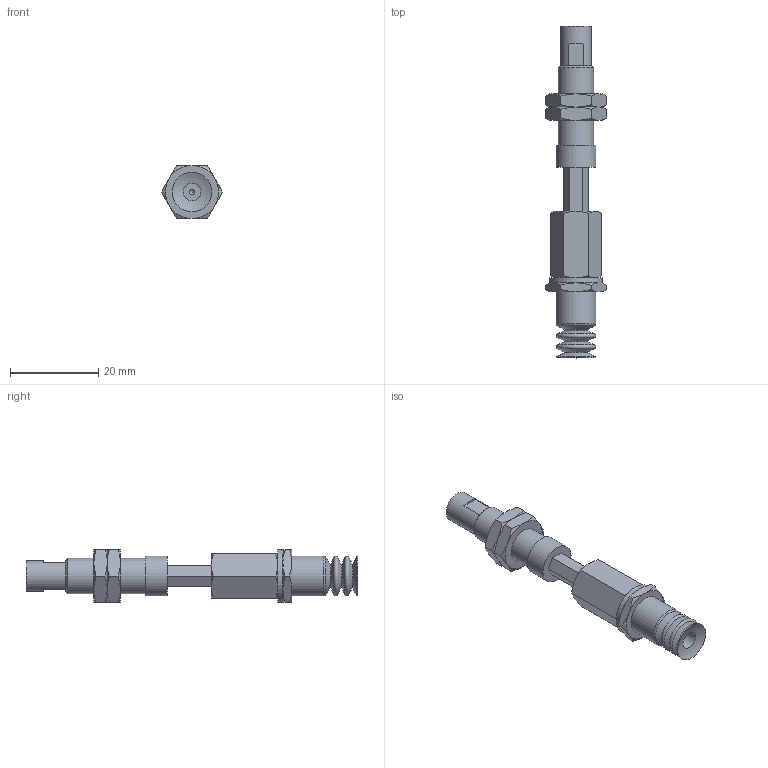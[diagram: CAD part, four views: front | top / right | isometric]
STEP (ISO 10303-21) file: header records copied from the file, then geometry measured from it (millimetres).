
FILE_DESCRIPTION(('STEP AP203'),'1');
FILE_NAME('.stp','2025-08-27T01:46:41',(' '),(' '),'Spatial InterOp 3D',' ',' ');
FILE_SCHEMA(('CONFIG_CONTROL_DESIGN'));
Length unit declared in the file: millimetre
Products named in the file (7): BNABPCTH-10-10-※; ADAPTER; NAPCTH-10-10-MBODY; Adapter_napc-10-T; Nut napc_h-10-10; NAPCTH-10-10-FBODY; BPCG-10-※
Assembly tree (7 placements, depth 2):
  BNABPCTH-10-10-※
    ADAPTER
    NAPCTH-10-10-MBODY
    Adapter_napc-10-T
    Nut napc_h-10-10  x2
    NAPCTH-10-10-FBODY
    BPCG-10-※
Bounding box: 13.86 x 75.2 x 12 mm (x, y, z)
Volume: 4461.3 mm3; surface area: 4866.5 mm2
Topology: 7 solids, 7 shells, 152 faces, 316 edges, 185 vertices
Faces by surface type: cone 64, plane 61, cylinder 17, torus 8, sphere 2
Full cylindrical faces by diameter (mm): 1.25 x1, 4 x1, 4.134 x2, 5 x5, 7 x1, 7.188 x2, 8 x1, 9 x3, 12 x1
Entity records: 3904 total; most frequent: CARTESIAN_POINT 1058, DIRECTION 518, ORIENTED_EDGE 450, AXIS2_PLACEMENT_3D 228, EDGE_CURVE 225, EDGE_LOOP 184, VERTEX_POINT 156, FACE_OUTER_BOUND 155
